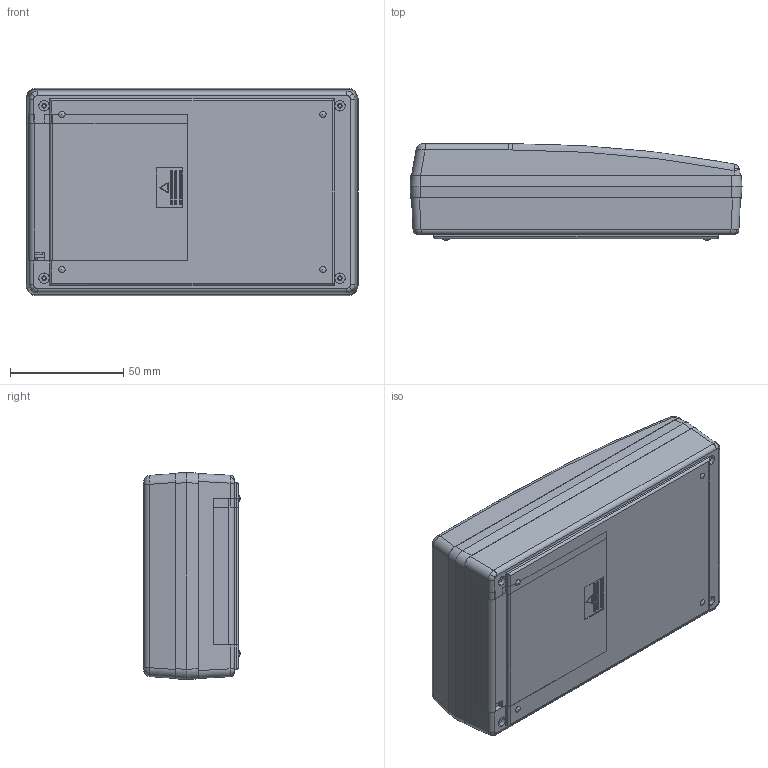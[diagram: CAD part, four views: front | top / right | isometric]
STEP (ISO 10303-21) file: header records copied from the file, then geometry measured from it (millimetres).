
FILE_DESCRIPTION (( 'STEP AP214' ), '1' );
FILE_NAME ('90-63-4A-E-F.STEP', '2020-11-01T21:03:44', ( 'Rudy' ), ( '' ), 'SwSTEP 2.0', 'SolidWorks 2014', '' );
FILE_SCHEMA (( 'AUTOMOTIVE_DESIGN' ));
Length unit declared in the file: inch
Products named in the file (6): 90 PCB 29V-4AA; 90 expander; 4AAdoor; 90-Top Sloped Flush; 90-4AA Deep; 90-63-4A-E-F
Assembly tree (5 placements, depth 2):
  90-63-4A-E-F
    90-4AA Deep
    90-Top Sloped Flush
    4AAdoor
    90 expander
    90 PCB 29V-4AA
Bounding box: 146.8 x 42.6 x 91.6 mm (x, y, z)
Volume: 176126.3 mm3; surface area: 124307.6 mm2
Topology: 5 solids, 5 shells, 851 faces, 2320 edges, 1499 vertices
Faces by surface type: plane 563, cylinder 183, cone 52, torus 24, bspline 19, sphere 10
Entity records: 27245 total; most frequent: CARTESIAN_POINT 5612, ORIENTED_EDGE 4600, DIRECTION 4269, EDGE_CURVE 2300, LINE 1669, VECTOR 1669, VERTEX_POINT 1491, AXIS2_PLACEMENT_3D 1300
